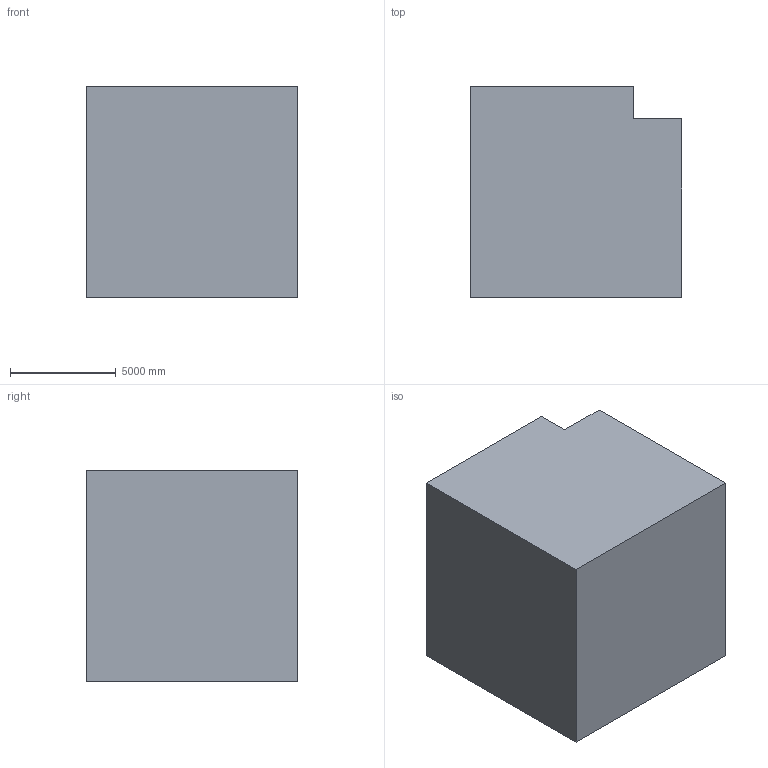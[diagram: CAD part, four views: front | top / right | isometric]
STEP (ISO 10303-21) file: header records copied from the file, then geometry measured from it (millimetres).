
FILE_DESCRIPTION (( 'STEP AP203' ), '1' );
FILE_NAME ('1182.STEP', '2022-08-18T13:05:05', ( 'user' ), ( '' ), 'SwSTEP 2.0', 'SolidWorks 2021', '' );
FILE_SCHEMA (( 'CONFIG_CONTROL_DESIGN' ));
Length unit declared in the file: centimetre
Products named in the file (1): 1182
Bounding box: 10000 x 10000 x 10000 mm (x, y, z)
Volume: 882499934807.8 mm3; surface area: 664812042.5 mm2
Topology: 1 solids, 1 shells, 12 faces, 30 edges, 20 vertices
Faces by surface type: plane 10, cylinder 2
Entity records: 437 total; most frequent: CARTESIAN_POINT 63, DIRECTION 62, ORIENTED_EDGE 60, EDGE_CURVE 30, VECTOR 24, LINE 24, VERTEX_POINT 20, AXIS2_PLACEMENT_3D 19
